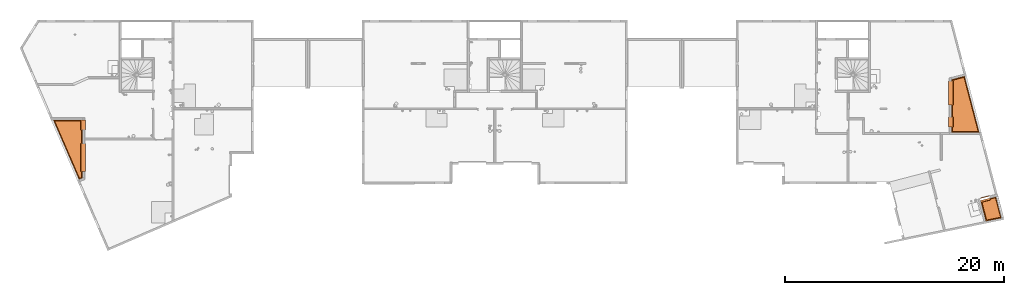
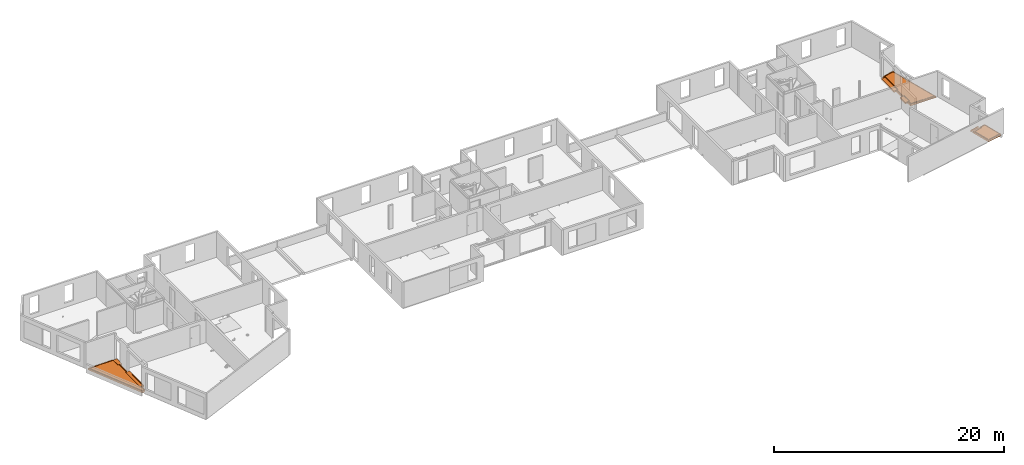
# One storey, part 24 of 24: 3 proxies.
"""IFC2X3 building model written with IfcOpenShell, lengths in centimetres."""

from ifc_helpers import new_model, entity, si_unit, converted_unit, derived_unit, direction, frame, origin, place, context, subcontext, project, spatial, faceted_brep, source, transform, mapped, material, type_object, type_shapes, element, save


model = new_model("IFC2X3")

# Units and contexts
model_context = context("Model", 3, precision=0.001, world=origin(), true_north=direction((6.12303176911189e-17, 1.0)))
body_context = subcontext(model_context, "Body", "Model", "MODEL_VIEW")
ifc_project = project(units=[si_unit("LENGTHUNIT", "METRE", prefix="CENTI"), si_unit("AREAUNIT", "SQUARE_METRE"), si_unit("VOLUMEUNIT", "CUBIC_METRE"), converted_unit("PLANEANGLEUNIT", "DEGREE", entity("IfcRatioMeasure", 0.0174532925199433), si_unit("PLANEANGLEUNIT", "RADIAN"), dimensions=[0, 0, 0, 0, 0, 0, 0]), si_unit("MASSUNIT", "GRAM", prefix="KILO"), derived_unit("MASSDENSITYUNIT", [(si_unit("MASSUNIT", "GRAM", prefix="KILO"), 1), (si_unit("LENGTHUNIT", "METRE"), -3)]), si_unit("TIMEUNIT", "SECOND"), si_unit("FREQUENCYUNIT", "HERTZ"), si_unit("THERMODYNAMICTEMPERATUREUNIT", "DEGREE_CELSIUS"), derived_unit("THERMALTRANSMITTANCEUNIT", [(si_unit("MASSUNIT", "GRAM", prefix="KILO"), 1), (si_unit("THERMODYNAMICTEMPERATUREUNIT", "KELVIN"), -1), (si_unit("TIMEUNIT", "SECOND"), -3)]), derived_unit("VOLUMETRICFLOWRATEUNIT", [(si_unit("LENGTHUNIT", "METRE"), 3), (si_unit("TIMEUNIT", "SECOND"), -1)]), si_unit("ELECTRICCURRENTUNIT", "AMPERE"), si_unit("ELECTRICVOLTAGEUNIT", "VOLT"), si_unit("POWERUNIT", "WATT"), si_unit("FORCEUNIT", "NEWTON"), si_unit("ILLUMINANCEUNIT", "LUX"), si_unit("LUMINOUSFLUXUNIT", "LUMEN"), si_unit("LUMINOUSINTENSITYUNIT", "CANDELA"), derived_unit("USERDEFINED", [(si_unit("MASSUNIT", "GRAM", prefix="KILO"), -1), (si_unit("LENGTHUNIT", "METRE"), -2), (si_unit("TIMEUNIT", "SECOND"), 3), (si_unit("LUMINOUSFLUXUNIT", "LUMEN"), 1)]), derived_unit("LINEARVELOCITYUNIT", [(si_unit("LENGTHUNIT", "METRE"), 1), (si_unit("TIMEUNIT", "SECOND"), -1)]), si_unit("PRESSUREUNIT", "PASCAL"), derived_unit("USERDEFINED", [(si_unit("LENGTHUNIT", "METRE"), -2), (si_unit("MASSUNIT", "GRAM", prefix="KILO"), 1), (si_unit("TIMEUNIT", "SECOND"), -2)])], contexts=[model_context])

# Site, building, storey
site_placement = place(None, origin())
site = spatial("IfcSite", under=ifc_project, at=site_placement, Name="Default", CompositionType="ELEMENT")
building_placement = place(site_placement, origin())
building = spatial("IfcBuilding", under=site, at=building_placement, Name="CAGE 03", CompositionType="ELEMENT")
storey_placement = place(building_placement, frame((0.0, 0.0, 880.0)))
storey = spatial("IfcBuildingStorey", under=building, at=storey_placement, Name="R+3", CompositionType="ELEMENT", Elevation=880.0)

# Proxies
ifc_material = material(Name="Béton, C25/30 balcon")
building_element_proxy_type_1 = type_object("IfcBuildingElementProxyType", Name="balcon CSP", PredefinedType="NOTDEFINED", material=ifc_material)
shared_shape_1 = source(origin(), body_context, "Body", "Brep", [
    faceted_brep([(292.715205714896, 329.810793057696, 0.0), (292.715205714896, 329.810793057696, 17.5), (292.715205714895, 74.8107930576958, 17.5), (292.715205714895, 74.8107930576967, 0.0), (286.715205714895, 74.8107930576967, 0.0), (268.715205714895, 74.8107930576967, 0.0), (268.715205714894, 14.0844099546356, 0.0), (236.163999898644, 0.0, 0.0), (0.0, 545.810793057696, 0.0), (268.715205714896, 545.810793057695, 0.0), (286.715205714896, 545.810793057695, 0.0), (292.715205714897, 545.810793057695, 0.0), (292.715205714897, 454.810793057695, 0.0), (286.715205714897, 454.810793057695, 0.0), (268.715205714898, 454.810793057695, 0.0), (268.715205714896, 329.810793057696, 0.0), (286.715205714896, 329.810793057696, 0.0), (268.715205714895, 74.8107930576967, 19.6099582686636), (268.715205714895, 74.8107930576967, 15.0), (262.277762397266, 74.8107930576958, 15.0), (262.675797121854, 74.8107930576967, 19.5495577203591), (285.715205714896, 329.810793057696, 15.9713250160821), (285.715205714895, 74.8107930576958, 15.9713250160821), (285.715205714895, 74.8107930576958, 15.0), (285.715205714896, 329.810793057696, 15.0), (268.715205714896, 329.810793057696, 15.0), (262.277762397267, 329.810793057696, 15.0), (262.277762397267, 454.810793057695, 15.0), (268.715205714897, 454.810793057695, 15.0), (285.715205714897, 454.810793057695, 15.0), (285.715205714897, 545.810793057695, 15.0), (268.715205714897, 545.810793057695, 15.0), (251.715205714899, 545.810793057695, 15.0), (251.715205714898, 539.373349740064, 15.0), (7.62039711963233, 539.373349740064, 15.0), (237.680215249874, 7.67024580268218, 15.0), (262.277762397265, 18.313229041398, 15.0), (251.715205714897, 329.810793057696, 15.0), (251.715205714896, 74.8107930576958, 15.0), (258.715205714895, 74.8107930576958, 15.0), (258.715205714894, 20.6535071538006, 15.0), (239.53511893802, 12.3545763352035, 15.0), (13.0436030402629, 535.810793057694, 15.0), (251.715205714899, 535.810793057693, 15.0), (251.715205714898, 454.810793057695, 15.0), (258.715205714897, 454.810793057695, 15.0), (258.715205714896, 329.810793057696, 15.0), (268.715205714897, 329.810793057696, 19.6099582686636), (268.715205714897, 454.810793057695, 19.6099582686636), (262.675797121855, 454.810793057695, 19.5495577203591), (262.675797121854, 329.810793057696, 19.549557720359), (249.739507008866, 329.810793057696, 19.4201809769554), (249.739507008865, 74.8107930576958, 19.4201809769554), (249.764508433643, 74.8107930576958, 16.9203059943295), (249.764508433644, 329.810793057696, 16.9203059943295), (251.715205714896, 74.8107930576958, 16.939815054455), (251.715205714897, 329.810793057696, 16.939815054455), (249.764508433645, 454.810793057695, 16.9203059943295), (249.739507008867, 454.810793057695, 19.4201809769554), (258.715205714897, 454.810793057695, 19.5099475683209), (251.715205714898, 454.810793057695, 16.939815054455), (292.715205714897, 454.810793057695, 17.5), (285.715205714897, 454.810793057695, 15.9713250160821), (292.715205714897, 545.810793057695, 17.5), (285.715205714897, 545.810793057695, 15.9713250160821), (251.715205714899, 545.810793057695, 16.939815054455), (0.0, 545.810793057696, 16.9225186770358), (249.739507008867, 545.810793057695, 19.4201809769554), (249.764508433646, 545.810793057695, 16.9203059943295), (249.739507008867, 539.760065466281, 19.4201809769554), (249.764508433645, 539.541354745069, 16.9203059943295), (251.715205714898, 539.543061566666, 16.939815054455), (268.715205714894, 14.0844099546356, 19.6099582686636), (258.715205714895, 74.8107930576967, 19.5099475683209), (258.715205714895, 20.653507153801, 19.5099475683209), (262.675797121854, 18.0517561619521, 19.5495577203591), (13.0436030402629, 535.810793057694, 17.0529686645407), (249.739507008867, 535.810793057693, 19.4201809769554), (249.764508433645, 535.810793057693, 16.9203059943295), (251.715205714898, 535.810793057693, 16.939815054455), (7.35455590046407, 539.547983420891, 16.9960721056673), (258.715205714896, 329.810793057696, 19.5099475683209), (239.53511893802, 12.3545763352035, 19.318126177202), (237.484448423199, 7.17586082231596, 19.2976172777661), (236.163999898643, 0.0, 19.2844113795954)], [[[0, 1, 2, 3]], [[0, 3, 4, 5, 6, 7, 8, 9, 10, 11, 12, 13, 14, 15, 16]], [[17, 18, 19, 20]], [[1, 21, 22, 2]], [[23, 24, 25, 26, 27, 28, 29, 30, 31, 32, 33, 34, 35, 36, 19, 18], [37, 38, 39, 40, 41, 42, 43, 44, 45, 46]], [[21, 24, 23, 22]], [[47, 48, 49, 50]], [[51, 52, 53, 54]], [[54, 53, 55, 56]], [[56, 55, 38, 37]], [[25, 47, 50, 26]], [[3, 2, 22, 23, 18, 5, 4]], [[57, 58, 59, 45, 44, 60]], [[12, 61, 62, 29, 28, 14, 13]], [[11, 63, 61, 12]], [[63, 64, 62, 61]], [[64, 30, 29, 62]], [[65, 32, 31, 30, 64, 63, 11, 10, 9, 8, 66, 67, 68]], [[68, 67, 69, 70]], [[65, 68, 70, 71]], [[32, 65, 71, 33]], [[24, 21, 1, 0, 16, 15, 25]], [[18, 17, 72, 6, 5]], [[48, 47, 25, 15, 14, 28]], [[40, 39, 73, 74]], [[19, 36, 75, 20]], [[43, 42, 76, 77, 78, 79]], [[34, 33, 71, 70, 69, 80]], [[46, 45, 59, 81]], [[27, 26, 50, 49]], [[41, 40, 74, 82]], [[36, 35, 83, 75]], [[42, 41, 82, 76]], [[35, 34, 80, 83]], [[84, 7, 6, 72]], [[7, 84, 66, 8]], [[60, 44, 43, 79]], [[57, 60, 79, 78]], [[58, 57, 78, 77]], [[48, 28, 27, 49]], [[51, 54, 56, 37, 46, 81]], [[52, 51, 81, 59, 58, 77, 76, 82, 74, 73]], [[17, 20, 75, 83, 80, 69, 67, 66, 84, 72]], [[53, 52, 73, 39, 38, 55]]]),
])
type_shapes(building_element_proxy_type_1, [shared_shape_1])
proxy_1_placement = place(storey_placement, frame((3050.15061442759, 3835.84987301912, -20.0)))
element("IfcBuildingElementProxy", 1, at=proxy_1_placement, inside=storey, type_object=building_element_proxy_type_1, material=ifc_material, Name="BY_STR_Balcon_CSP_01:balcon CSP", ObjectType="balcon CSP", context=body_context, shape_type="MappedRepresentation", body=[
    mapped(shared_shape_1, transform((0.0, 0.0, 0.0), scale=1.0)),
])
building_element_proxy_type_2 = type_object("IfcBuildingElementProxyType", Name="balcon CSP", PredefinedType="NOTDEFINED", material=ifc_material)
shared_shape_2 = source(origin(), body_context, "Body", "Brep", [
    faceted_brep([(42.9756987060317, 250.0, 19.4201809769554), (42.9756987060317, 470.0, 19.4201809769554), (42.9506972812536, 470.0, 16.9203059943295), (42.9506972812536, 250.0, 16.9203059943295), (0.0, 250.0, 17.5), (7.0, 250.0, 15.9713250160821), (7.0, 470.0, 15.9713250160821), (0.0, 470.0, 17.5), (24.0, 470.0, 19.6099582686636), (24.0, 470.0, 15.0), (30.4374433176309, 470.0, 15.0), (30.0394085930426, 470.0, 19.549557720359), (7.0, 250.0, 15.0), (0.0, 250.0, 0.0), (6.0, 250.0, 0.0), (24.0, 250.0, 0.0), (24.0, 250.0, 15.0), (0.0, 470.0, 0.0), (7.0, 470.0, 15.0), (24.0, 470.0, 0.0), (6.0, 470.0, 0.0), (41.0, 470.0, 16.939815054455), (41.0, 250.0, 16.939815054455), (24.0, 483.640736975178, 0.0), (144.531483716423, 515.118033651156, 0.0), (279.056693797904, 0.0, 0.0), (24.0, 0.0, 0.0), (24.0, 50.0, 0.0), (6.0, 50.0, 0.0), (0.0, 50.0, 0.0), (0.0, 141.0, 0.0), (6.0, 141.0, 0.0), (24.0, 141.0, 0.0), (41.0, 50.0, 16.939815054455), (41.0, 141.0, 16.939815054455), (41.0, 141.0, 15.0), (41.0, 50.0, 15.0), (24.0, 483.640736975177, 19.6099582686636), (24.0, 250.0, 19.6099582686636), (30.0394085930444, 250.0, 19.5495577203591), (30.4374433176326, 250.0, 15.0), (24.0, 50.0, 19.6099582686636), (30.0394085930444, 50.0, 19.5495577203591), (30.4374433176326, 50.0, 15.0), (24.0, 50.0, 15.0), (0.0, 141.0, 17.5), (7.0, 141.0, 15.9713250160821), (7.0, 141.0, 15.0), (24.0, 141.0, 15.0), (0.0, 50.0, 17.5), (7.0, 50.0, 15.9713250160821), (7.0, 50.0, 15.0), (42.9756987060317, 50.0, 19.4201809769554), (42.9756987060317, 141.0, 19.4201809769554), (42.9506972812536, 141.0, 16.9203059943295), (42.9506972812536, 50.0, 16.9203059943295), (41.0, 470.0, 15.0), (41.0, 250.0, 15.0), (34.0, 141.0, 19.5099475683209), (34.0, 141.0, 15.0), (24.0, 0.0, 19.6099582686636), (279.056693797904, 0.0, 17.0591184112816), (34.0, 250.0, 19.5099475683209), (34.0, 50.0, 19.5099475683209), (34.0, 10.0, 19.5099475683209), (268.176845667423, 10.0, 17.1679285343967), (139.317880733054, 503.421096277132, 18.4566560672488), (34.0, 475.916895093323, 19.5099475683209), (34.0, 470.0, 19.5099475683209), (34.0, 470.0, 15.0), (34.0, 475.916895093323, 15.0), (139.317880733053, 503.421096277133, 15.0), (268.176845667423, 10.0, 15.0), (34.0, 10.0, 15.0), (34.0, 50.0, 15.0), (34.0, 250.0, 15.0), (30.4374433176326, 6.4374433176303, 15.0), (272.789261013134, 6.43744331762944, 15.0), (141.864646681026, 507.768233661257, 15.0), (30.4374433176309, 478.668557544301, 15.0), (30.4374433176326, 141.0, 15.0), (24.0, 141.0, 19.6099582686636), (30.0394085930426, 478.975993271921, 19.5495577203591), (30.0394085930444, 141.0, 19.549557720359), (142.079109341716, 508.134305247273, 18.429040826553), (273.029327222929, 6.25201997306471, 17.1193985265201), (144.531483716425, 515.118033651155, 18.4045144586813), (30.0394085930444, 6.03940859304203, 19.549557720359)], [[[0, 1, 2, 3]], [[4, 5, 6, 7]], [[8, 9, 10, 11]], [[12, 5, 4, 13, 14, 15, 16]], [[17, 7, 6, 18, 9, 19, 20]], [[3, 2, 21, 22]], [[13, 17, 20, 19, 23, 24, 25, 26, 27, 28, 29, 30, 31, 32, 15, 14]], [[33, 34, 35, 36]], [[5, 12, 18, 6]], [[9, 8, 37, 23, 19]], [[16, 38, 39, 40]], [[41, 42, 43, 44]], [[13, 4, 7, 17]], [[30, 45, 46, 47, 48, 32, 31]], [[29, 49, 45, 30]], [[49, 50, 46, 45]], [[50, 51, 47, 46]], [[51, 50, 49, 29, 28, 27, 44]], [[52, 53, 54, 55]], [[55, 54, 34, 33]], [[22, 21, 56, 57]], [[54, 53, 58, 59, 35, 34]], [[60, 26, 25, 61]], [[1, 0, 62, 58, 53, 52, 63, 64, 65, 66, 67, 68]], [[57, 56, 69, 70, 71, 72, 73, 74, 36, 35, 59, 75], [44, 43, 76, 77, 78, 79, 10, 9, 18, 12, 16, 40, 80, 48, 47, 51]], [[81, 38, 16, 15, 32, 48]], [[70, 69, 68, 67]], [[10, 79, 82, 11]], [[75, 59, 58, 62]], [[80, 40, 39, 83]], [[71, 70, 67, 66]], [[79, 78, 84, 82]], [[72, 71, 66, 65]], [[78, 77, 85, 84]], [[86, 24, 23, 37]], [[25, 24, 86, 61]], [[26, 60, 41, 44, 27]], [[74, 73, 64, 63]], [[76, 43, 42, 87]], [[73, 72, 65, 64]], [[77, 76, 87, 85]], [[38, 81, 83, 39]], [[8, 11, 82, 84, 85, 87, 42, 41, 60, 61, 86, 37]], [[81, 48, 80, 83]], [[74, 63, 52, 55, 33, 36]], [[0, 3, 22, 57, 75, 62]], [[2, 1, 68, 69, 56, 21]]], outer=[[True], [True], [True], [True], [True], [True], [True], [True], [True], [True], [True], [True], [True], [True], [True], [True], [True], [True], [True], [True], [True], [True], [True], [True], [False, True], [True], [True], [True], [True], [True], [True], [True], [True], [True], [True], [True], [True], [True], [True], [True], [True], [True], [True], [True], [True], [True], [True]]),
])
type_shapes(building_element_proxy_type_2, [shared_shape_2])
proxy_2_placement = place(storey_placement, frame((11224.3658201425, 4266.66066607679, -20.0)))
element("IfcBuildingElementProxy", 2, at=proxy_2_placement, inside=storey, type_object=building_element_proxy_type_2, material=ifc_material, Name="BY_STR_Balcon_CSP_02:balcon CSP", ObjectType="balcon CSP", context=body_context, shape_type="MappedRepresentation", body=[
    mapped(shared_shape_2, transform((0.0, 0.0, 0.0), scale=1.0)),
])
building_element_proxy_type_3 = type_object("IfcBuildingElementProxyType", Name="balcon CSP", PredefinedType="NOTDEFINED", material=ifc_material)
shared_shape_3 = source(origin(), body_context, "Body", "Brep", [
    faceted_brep([(10.3598672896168, 173.160925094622, 16.939815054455), (16.4242108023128, 174.74465354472, 16.939815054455), (16.5884154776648, 174.787536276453, 15.0), (10.3598672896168, 173.160925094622, 15.0), (62.8588143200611, 11.710056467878, 17.7449866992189), (20.5345860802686, 173.776134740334, 19.4201809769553), (20.5282687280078, 173.800324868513, 16.9203059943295), (20.0353671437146, 175.687721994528, 16.939815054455), (20.0353671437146, 175.687721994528, 15.0), (62.8588143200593, 11.7100564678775, 15.0), (145.911866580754, 219.889083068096, 19.549557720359), (95.6373971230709, 206.759696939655, 19.549557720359), (95.7379724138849, 206.374578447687, 15.0), (145.627323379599, 219.403389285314, 15.0), (143.080557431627, 215.05625190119, 19.5099475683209), (189.375509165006, 37.7856533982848, 17.6775919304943), (189.375509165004, 37.7856533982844, 15.0), (143.080557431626, 215.05625190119, 15.0), (60.0937807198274, 7.26075435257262, 17.7089202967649), (194.055606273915, 34.8771914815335, 17.637621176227), (193.770898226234, 35.054124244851, 15.0), (60.2662514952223, 7.53828247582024, 15.0), (10.85276887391, 171.273527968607, 16.9203059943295), (10.8590862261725, 171.249337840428, 19.4201809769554), (16.7134676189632, 172.778233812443, 19.4201809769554), (16.9187638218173, 172.857687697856, 16.9203059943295), (98.9061348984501, 194.243189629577, 19.4201809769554), (96.6381581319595, 202.927626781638, 19.5099475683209), (96.6381581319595, 202.927626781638, 15.0), (98.4069159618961, 196.154776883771, 15.0), (98.4069159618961, 196.154776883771, 16.939815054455), (98.8998175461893, 194.267379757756, 16.9203059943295), (55.5815607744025, 0.0, 17.6500640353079), (199.751747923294, 29.7140523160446, 17.5732653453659), (148.294160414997, 226.753189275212, 19.6099582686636), (94.1113612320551, 212.603126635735, 19.6099582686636), (6.06431255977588, 189.609274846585, 15.0), (6.06431255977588, 189.609274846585, 0.0), (55.5815607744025, 0.0, 0.0), (148.294160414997, 226.753189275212, 0.0), (94.1113612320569, 212.603126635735, 15.0), (199.751747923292, 29.7140523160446, 0.0)], [[[0, 1, 2, 3]], [[4, 5, 6, 7, 8, 9]], [[10, 11, 12, 13]], [[14, 15, 16, 17]], [[18, 19, 20, 21]], [[22, 23, 24, 25]], [[26, 27, 28, 29, 30, 31]], [[23, 32, 33, 34, 35, 11, 10, 19, 18, 24]], [[13, 20, 19, 10]], [[3, 36, 37, 38, 32, 23, 22, 0]], [[34, 39, 37, 36, 40, 35]], [[0, 22, 25, 1]], [[36, 3, 2, 21, 20, 13, 12, 40], [28, 17, 16, 9, 8, 29]], [[39, 34, 33, 41]], [[24, 18, 21, 2, 1, 25]], [[27, 14, 17, 28]], [[32, 38, 41, 33]], [[15, 4, 9, 16]], [[7, 30, 29, 8]], [[5, 26, 31, 6]], [[35, 40, 12, 11]], [[26, 5, 4, 15, 14, 27]], [[6, 31, 30, 7]], [[37, 39, 41, 38]]]),
    faceted_brep([(88.0470486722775, 235.824326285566, 0.0), (88.0470486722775, 235.824326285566, 17.5), (89.5631268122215, 230.019026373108, 16.1897071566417), (89.5631268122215, 230.019026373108, 0.0), (0.0, 212.830474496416, 0.0), (0.0, 212.830474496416, 17.5), (1.51607813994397, 207.025174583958, 16.1897071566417), (1.5160781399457, 207.025174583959, 0.0)], [[[0, 1, 2, 3]], [[4, 5, 1, 0]], [[1, 5, 6, 2]], [[4, 0, 3, 7]], [[3, 2, 6, 7]], [[5, 4, 7, 6]]]),
])
type_shapes(building_element_proxy_type_3, [shared_shape_3])
proxy_3_placement = place(storey_placement, frame((11507.6472712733, 3455.88872702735, -20.0)))
element("IfcBuildingElementProxy", 3, at=proxy_3_placement, inside=storey, type_object=building_element_proxy_type_3, material=ifc_material, Name="BY_STR_Balcon_CSP_03:balcon CSP", ObjectType="balcon CSP", context=body_context, shape_type="MappedRepresentation", body=[
    mapped(shared_shape_3, transform((0.0, 0.0, 0.0), scale=1.0)),
])

save(model, "model.ifc")
